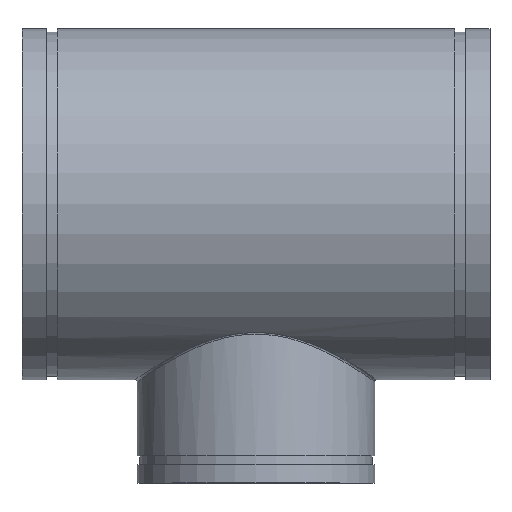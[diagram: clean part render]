
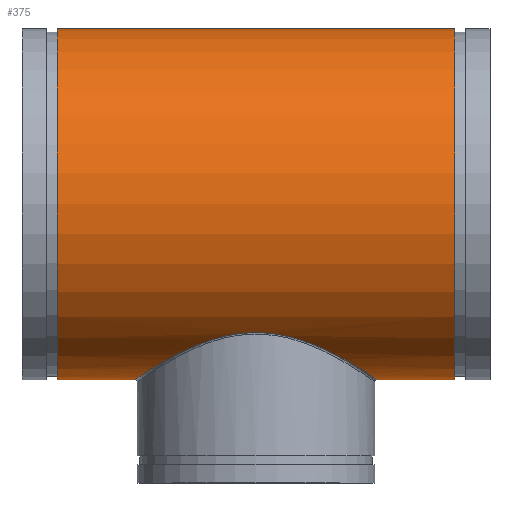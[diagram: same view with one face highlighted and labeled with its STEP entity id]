
A CAD part, top view. The second image highlights one B-rep face of the part: STEP entity #375.
In plain terms, the highlighted cylindrical face has radius 247.65 mm (diameter 495.3 mm), a full revolution.
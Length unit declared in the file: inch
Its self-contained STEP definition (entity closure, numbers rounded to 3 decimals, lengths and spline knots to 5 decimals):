
#54=FACE_BOUND('',#119,.T.);
#65=LINE('',#917,#76);
#76=VECTOR('',#483,9.75);
#87=CYLINDRICAL_SURFACE('',#415,9.75);
#98=FACE_OUTER_BOUND('',#118,.T.);
#118=EDGE_LOOP('',(#266,#267,#268,#269));
#119=EDGE_LOOP('',(#270));
#150=B_SPLINE_CURVE_WITH_KNOTS('',3,(#871,#872,#873,#874,#875,#876,#877,
#878,#879,#880,#881,#882,#883,#884,#885,#886,#887,#888,#889,#890,#891,#892,
#893,#894,#895,#896,#897,#898,#899,#900,#901,#902,#903,#904,#905,#906,#907,
#908,#909,#910,#911,#912),.UNSPECIFIED.,.T.,.F.,(4,1,1,1,1,1,1,1,1,1,1,
1,1,1,1,1,1,1,1,1,1,1,1,1,1,1,1,1,1,1,1,1,1,1,1,1,1,1,1,4),(-105.41773,
-103.53527,-101.65281,-97.88789,-94.12297,
-90.35805,-85.33816,-80.31827,-80.00452,
-79.69078,-79.06329,-77.80832,-76.55335,
-75.29838,-70.27848,-67.76854,-62.74865,
-60.2387,-57.72875,-55.21881,-52.70886,
-50.19892,-47.68897,-45.17903,-40.15913,
-35.13924,-31.79265,-30.11935,-27.6094,
-26.35443,-25.72694,-25.4132,-25.09946,
-20.07957,-15.05968,-11.29476,-7.52984,
-3.76492,-1.88246,0.),.UNSPECIFIED.);
#154=CIRCLE('',#416,9.75);
#155=CIRCLE('',#417,9.75);
#182=VERTEX_POINT('',#821);
#185=VERTEX_POINT('',#914);
#186=VERTEX_POINT('',#916);
#219=EDGE_CURVE('',#182,#182,#150,.T.);
#220=EDGE_CURVE('',#185,#185,#154,.T.);
#221=EDGE_CURVE('',#185,#186,#65,.T.);
#222=EDGE_CURVE('',#186,#186,#155,.T.);
#266=ORIENTED_EDGE('',*,*,#220,.T.);
#267=ORIENTED_EDGE('',*,*,#221,.T.);
#268=ORIENTED_EDGE('',*,*,#222,.T.);
#269=ORIENTED_EDGE('',*,*,#221,.F.);
#270=ORIENTED_EDGE('',*,*,#219,.F.);
#375=ADVANCED_FACE('',(#98,#54),#87,.T.);
#415=AXIS2_PLACEMENT_3D('',#913,#479,#480);
#416=AXIS2_PLACEMENT_3D('',#915,#481,#482);
#417=AXIS2_PLACEMENT_3D('',#918,#484,#485);
#479=DIRECTION('center_axis',(-1.,0.,0.));
#480=DIRECTION('ref_axis',(0.,-1.,0.));
#481=DIRECTION('center_axis',(1.,0.,0.));
#482=DIRECTION('ref_axis',(0.,-1.,0.));
#483=DIRECTION('',(1.,0.,0.));
#484=DIRECTION('center_axis',(-1.,0.,0.));
#485=DIRECTION('ref_axis',(0.,-1.,0.));
#821=CARTESIAN_POINT('',(0.,-7.13965,-6.63987));
#871=CARTESIAN_POINT('Ctrl Pts',(0.,-7.13965,
-6.63987));
#872=CARTESIAN_POINT('Ctrl Pts',(0.26097,-7.13965,-6.63987));
#873=CARTESIAN_POINT('Ctrl Pts',(0.78268,-7.16786,-6.60977));
#874=CARTESIAN_POINT('Ctrl Pts',(1.8015,-7.32958,-6.43234));
#875=CARTESIAN_POINT('Ctrl Pts',(2.98842,-7.69354,-6.00817));
#876=CARTESIAN_POINT('Ctrl Pts',(4.22789,-8.25177,-5.22973));
#877=CARTESIAN_POINT('Ctrl Pts',(5.38228,-8.88609,-4.09998));
#878=CARTESIAN_POINT('Ctrl Pts',(6.32468,-9.48015,-2.53936));
#879=CARTESIAN_POINT('Ctrl Pts',(6.66178,-9.70769,-1.1572));
#880=CARTESIAN_POINT('Ctrl Pts',(6.71399,-9.7426,-0.38628));
#881=CARTESIAN_POINT('Ctrl Pts',(6.72249,-9.74832,-0.21482));
#882=CARTESIAN_POINT('Ctrl Pts',(6.72836,-9.75223,0.08578));
#883=CARTESIAN_POINT('Ctrl Pts',(6.7115,-9.74098,0.51535));
#884=CARTESIAN_POINT('Ctrl Pts',(6.65098,-9.7002,1.02584));
#885=CARTESIAN_POINT('Ctrl Pts',(6.45161,-9.56793,2.03091));
#886=CARTESIAN_POINT('Ctrl Pts',(5.99874,-9.26956,3.12465));
#887=CARTESIAN_POINT('Ctrl Pts',(5.05743,-8.70278,4.4586));
#888=CARTESIAN_POINT('Ctrl Pts',(4.10002,-8.18365,5.33115));
#889=CARTESIAN_POINT('Ctrl Pts',(2.97122,-7.70452,5.98328));
#890=CARTESIAN_POINT('Ctrl Pts',(2.04272,-7.4002,6.35243));
#891=CARTESIAN_POINT('Ctrl Pts',(1.04376,-7.1902,6.58605));
#892=CARTESIAN_POINT('Ctrl Pts',(-0.00003,-7.11425,
6.66686));
#893=CARTESIAN_POINT('Ctrl Pts',(-1.04378,-7.19033,6.58596));
#894=CARTESIAN_POINT('Ctrl Pts',(-2.0428,-7.39994,6.35259));
#895=CARTESIAN_POINT('Ctrl Pts',(-3.28071,-7.80677,5.8597));
#896=CARTESIAN_POINT('Ctrl Pts',(-4.62414,-8.44774,4.9467));
#897=CARTESIAN_POINT('Ctrl Pts',(-5.73016,-9.10236,3.60452));
#898=CARTESIAN_POINT('Ctrl Pts',(-6.30085,-9.46875,2.39598));
#899=CARTESIAN_POINT('Ctrl Pts',(-6.58801,-9.65803,1.42155));
#900=CARTESIAN_POINT('Ctrl Pts',(-6.70483,-9.73646,0.68715));
#901=CARTESIAN_POINT('Ctrl Pts',(-6.72834,-9.75224,0.0859));
#902=CARTESIAN_POINT('Ctrl Pts',(-6.7225,-9.74833,-0.21473));
#903=CARTESIAN_POINT('Ctrl Pts',(-6.714,-9.7426,-0.38619));
#904=CARTESIAN_POINT('Ctrl Pts',(-6.66179,-9.7077,-1.15712));
#905=CARTESIAN_POINT('Ctrl Pts',(-6.32473,-9.48018,-2.53926));
#906=CARTESIAN_POINT('Ctrl Pts',(-5.38228,-8.88609,-4.09998));
#907=CARTESIAN_POINT('Ctrl Pts',(-4.22802,-8.25183,-5.22962));
#908=CARTESIAN_POINT('Ctrl Pts',(-2.9883,-7.69349,-6.00825));
#909=CARTESIAN_POINT('Ctrl Pts',(-1.80153,-7.32959,-6.43231));
#910=CARTESIAN_POINT('Ctrl Pts',(-0.78267,-7.16785,-6.60978));
#911=CARTESIAN_POINT('Ctrl Pts',(-0.26097,-7.13965,-6.63987));
#912=CARTESIAN_POINT('Ctrl Pts',(0.,-7.13965,
-6.63987));
#913=CARTESIAN_POINT('Origin',(13.,0.,0.));
#914=CARTESIAN_POINT('',(-11.035,9.75,0.));
#915=CARTESIAN_POINT('Origin',(-11.035,0.,0.));
#916=CARTESIAN_POINT('',(11.035,9.75,0.));
#917=CARTESIAN_POINT('',(13.,9.75,0.));
#918=CARTESIAN_POINT('Origin',(11.035,0.,0.));
